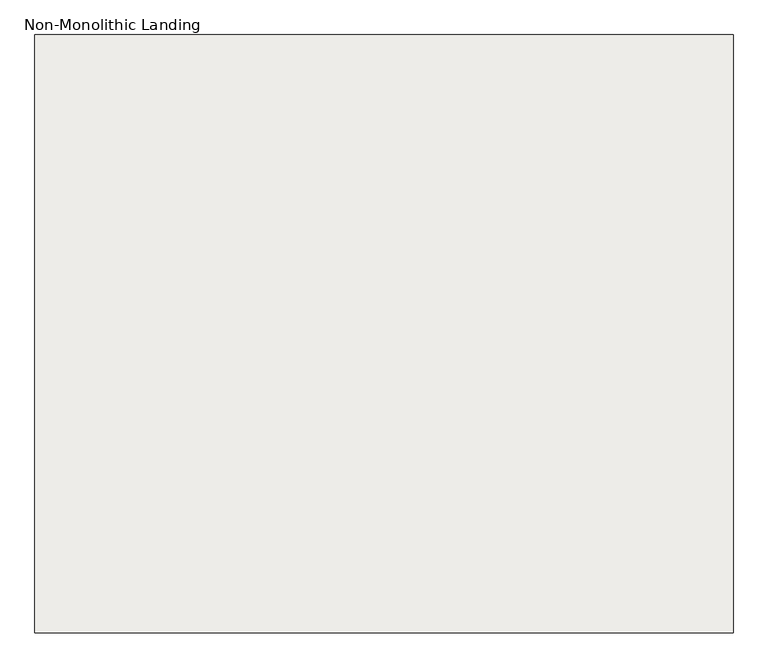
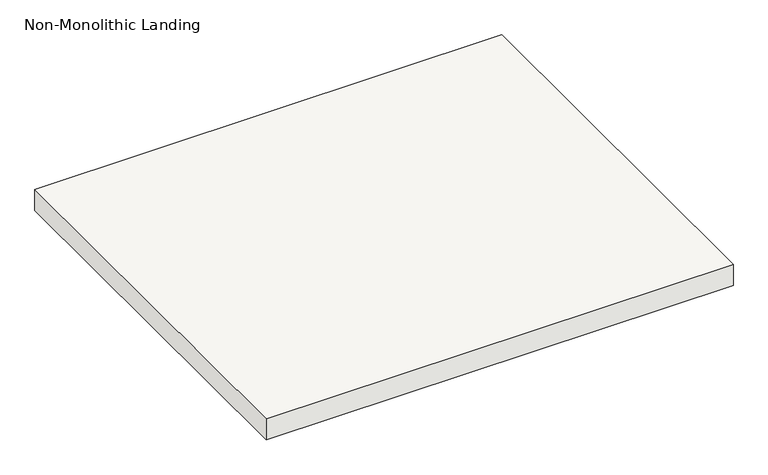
"""IFC4 building model written with IfcOpenShell, lengths in millimetres: slab geometry, Non-Monolithic Landing."""

from ifc_helpers import new_model, si_unit, frame, origin, place, context, project, spatial, polyline, outline, extrude, source, transform, mapped, element, save


def non_monolithic_landing_c4f6e05a(model_context):
    return source(origin(), model_context, "Body", "SweptSolid", [
        extrude(outline(polyline([(138628.9384933, -34610.1173894), (139695.7384933, -34610.1173894), (139695.7384933, -35524.5173894), (138628.9384933, -35524.5173894), (138628.9384933, -34610.1173894)])), frame((0.0, 0.0, 2195.0947368), z_axis=(0.0, 0.0, 1.0), x_axis=(1.0, 0.0, 0.0)), (0.0, 0.0, 1.0), 50.8),
    ])


if __name__ == "__main__":
    model = new_model("IFC4")
    model_context = context("Model", 3, world=origin())
    ifc_project = project(units=[si_unit("LENGTHUNIT", "METRE", prefix="MILLI")], contexts=[model_context])
    site = spatial("IfcSite", under=ifc_project)
    building = spatial("IfcBuilding", under=site)
    placement = place(None, origin())
    non_monolithic_landing_shape = non_monolithic_landing_c4f6e05a(model_context)
    element("IfcSlab", 1, ObjectType="Non-Monolithic Landing", at=placement, inside=building, context=model_context, shape_type="MappedRepresentation", body=[
        mapped(non_monolithic_landing_shape, transform((0.0, 0.0, 0.0), x_axis=(1.0, 0.0, 0.0), y_axis=(0.0, 1.0, 0.0), z_axis=(0.0, 0.0, 1.0))),
    ])
    save(model, "model.ifc")
